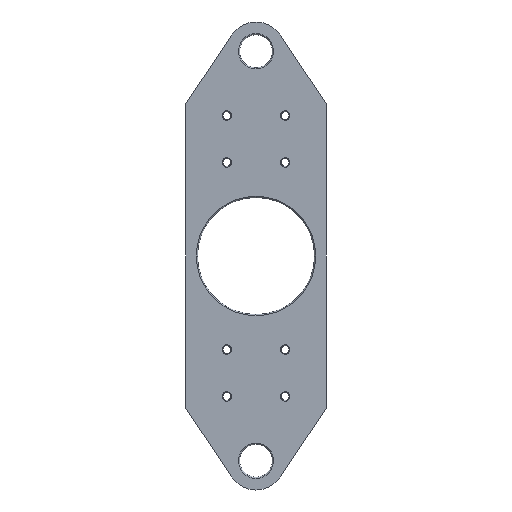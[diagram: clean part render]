
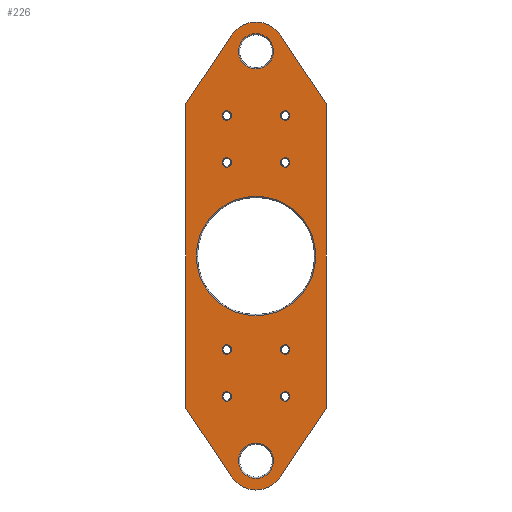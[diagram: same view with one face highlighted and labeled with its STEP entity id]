
A CAD part, front view. The second image highlights one B-rep face of the part: STEP entity #226.
In plain terms, the highlighted planar face has unit normal (0, -1, 0).
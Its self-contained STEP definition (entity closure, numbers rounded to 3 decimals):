
#122=FACE_BOUND('',#292,.T.);
#123=FACE_BOUND('',#293,.T.);
#124=FACE_BOUND('',#294,.T.);
#125=FACE_BOUND('',#295,.T.);
#126=FACE_BOUND('',#296,.T.);
#127=FACE_BOUND('',#297,.T.);
#128=FACE_BOUND('',#298,.T.);
#129=FACE_BOUND('',#299,.T.);
#130=FACE_BOUND('',#300,.T.);
#131=FACE_BOUND('',#301,.T.);
#132=FACE_BOUND('',#302,.T.);
#133=FACE_BOUND('',#303,.T.);
#214=PLANE('',#760);
#226=ADVANCED_FACE('',(#122,#123,#124,#125,#126,#127,#128,#129,#130,#131,
#132,#133),#214,.F.);
#292=EDGE_LOOP('',(#454));
#293=EDGE_LOOP('',(#455));
#294=EDGE_LOOP('',(#456));
#295=EDGE_LOOP('',(#457));
#296=EDGE_LOOP('',(#458));
#297=EDGE_LOOP('',(#459));
#298=EDGE_LOOP('',(#460));
#299=EDGE_LOOP('',(#461));
#300=EDGE_LOOP('',(#462));
#301=EDGE_LOOP('',(#463));
#302=EDGE_LOOP('',(#464));
#303=EDGE_LOOP('',(#465,#466,#467,#468,#469,#470,#471,#472));
#381=LINE('',#1038,#401);
#384=LINE('',#1044,#404);
#387=LINE('',#1050,#407);
#391=LINE('',#1062,#411);
#394=LINE('',#1068,#414);
#397=LINE('',#1078,#417);
#401=VECTOR('',#833,1.);
#404=VECTOR('',#838,1.);
#407=VECTOR('',#843,1.);
#411=VECTOR('',#855,1.);
#414=VECTOR('',#860,1.);
#417=VECTOR('',#871,1.);
#454=ORIENTED_EDGE('',*,*,#642,.T.);
#455=ORIENTED_EDGE('',*,*,#643,.T.);
#456=ORIENTED_EDGE('',*,*,#644,.T.);
#457=ORIENTED_EDGE('',*,*,#645,.F.);
#458=ORIENTED_EDGE('',*,*,#646,.F.);
#459=ORIENTED_EDGE('',*,*,#647,.F.);
#460=ORIENTED_EDGE('',*,*,#648,.T.);
#461=ORIENTED_EDGE('',*,*,#649,.T.);
#462=ORIENTED_EDGE('',*,*,#650,.T.);
#463=ORIENTED_EDGE('',*,*,#651,.T.);
#464=ORIENTED_EDGE('',*,*,#652,.T.);
#465=ORIENTED_EDGE('',*,*,#616,.F.);
#466=ORIENTED_EDGE('',*,*,#639,.F.);
#467=ORIENTED_EDGE('',*,*,#634,.F.);
#468=ORIENTED_EDGE('',*,*,#631,.F.);
#469=ORIENTED_EDGE('',*,*,#628,.F.);
#470=ORIENTED_EDGE('',*,*,#625,.F.);
#471=ORIENTED_EDGE('',*,*,#622,.F.);
#472=ORIENTED_EDGE('',*,*,#619,.F.);
#556=VERTEX_POINT('',#1031);
#557=VERTEX_POINT('',#1033);
#559=VERTEX_POINT('',#1039);
#561=VERTEX_POINT('',#1045);
#563=VERTEX_POINT('',#1051);
#565=VERTEX_POINT('',#1057);
#567=VERTEX_POINT('',#1063);
#569=VERTEX_POINT('',#1069);
#574=VERTEX_POINT('',#1086);
#575=VERTEX_POINT('',#1088);
#576=VERTEX_POINT('',#1090);
#577=VERTEX_POINT('',#1092);
#578=VERTEX_POINT('',#1094);
#579=VERTEX_POINT('',#1096);
#580=VERTEX_POINT('',#1098);
#581=VERTEX_POINT('',#1100);
#582=VERTEX_POINT('',#1102);
#583=VERTEX_POINT('',#1104);
#584=VERTEX_POINT('',#1106);
#616=EDGE_CURVE('',#556,#557,#683,.T.);
#619=EDGE_CURVE('',#557,#559,#381,.T.);
#622=EDGE_CURVE('',#559,#561,#384,.T.);
#625=EDGE_CURVE('',#561,#563,#387,.T.);
#628=EDGE_CURVE('',#563,#565,#685,.T.);
#631=EDGE_CURVE('',#565,#567,#391,.T.);
#634=EDGE_CURVE('',#567,#569,#394,.T.);
#639=EDGE_CURVE('',#569,#556,#397,.T.);
#642=EDGE_CURVE('',#574,#574,#690,.T.);
#643=EDGE_CURVE('',#575,#575,#691,.T.);
#644=EDGE_CURVE('',#576,#576,#692,.T.);
#645=EDGE_CURVE('',#577,#577,#693,.T.);
#646=EDGE_CURVE('',#578,#578,#694,.T.);
#647=EDGE_CURVE('',#579,#579,#695,.T.);
#648=EDGE_CURVE('',#580,#580,#696,.T.);
#649=EDGE_CURVE('',#581,#581,#697,.T.);
#650=EDGE_CURVE('',#582,#582,#698,.T.);
#651=EDGE_CURVE('',#583,#583,#699,.T.);
#652=EDGE_CURVE('',#584,#584,#700,.T.);
#683=CIRCLE('',#732,25.);
#685=CIRCLE('',#738,25.);
#690=CIRCLE('',#749,15.);
#691=CIRCLE('',#750,51.);
#692=CIRCLE('',#751,15.);
#693=CIRCLE('',#752,4.);
#694=CIRCLE('',#753,4.);
#695=CIRCLE('',#754,4.);
#696=CIRCLE('',#755,4.);
#697=CIRCLE('',#756,4.);
#698=CIRCLE('',#757,4.);
#699=CIRCLE('',#758,4.);
#700=CIRCLE('',#759,4.);
#732=AXIS2_PLACEMENT_3D('',#1032,#827,#828);
#738=AXIS2_PLACEMENT_3D('',#1056,#849,#850);
#749=AXIS2_PLACEMENT_3D('',#1085,#880,#881);
#750=AXIS2_PLACEMENT_3D('',#1087,#882,#883);
#751=AXIS2_PLACEMENT_3D('',#1089,#884,#885);
#752=AXIS2_PLACEMENT_3D('',#1091,#886,#887);
#753=AXIS2_PLACEMENT_3D('',#1093,#888,#889);
#754=AXIS2_PLACEMENT_3D('',#1095,#890,#891);
#755=AXIS2_PLACEMENT_3D('',#1097,#892,#893);
#756=AXIS2_PLACEMENT_3D('',#1099,#894,#895);
#757=AXIS2_PLACEMENT_3D('',#1101,#896,#897);
#758=AXIS2_PLACEMENT_3D('',#1103,#898,#899);
#759=AXIS2_PLACEMENT_3D('',#1105,#900,#901);
#760=AXIS2_PLACEMENT_3D('',#1107,#902,#903);
#827=DIRECTION('',(0.,1.,0.));
#828=DIRECTION('',(1.,0.,0.));
#833=DIRECTION('',(0.554,0.,-0.832));
#838=DIRECTION('',(0.,0.,-1.));
#843=DIRECTION('',(-0.554,0.,-0.832));
#849=DIRECTION('',(0.,1.,0.));
#850=DIRECTION('',(1.,0.,0.));
#855=DIRECTION('',(-0.554,0.,0.832));
#860=DIRECTION('',(0.,0.,1.));
#871=DIRECTION('',(0.554,0.,0.832));
#880=DIRECTION('',(0.,1.,0.));
#881=DIRECTION('',(0.,0.,1.));
#882=DIRECTION('',(0.,1.,0.));
#883=DIRECTION('',(0.,0.,1.));
#884=DIRECTION('',(0.,1.,0.));
#885=DIRECTION('',(0.,0.,1.));
#886=DIRECTION('',(0.,-1.,0.));
#887=DIRECTION('',(0.,0.,1.));
#888=DIRECTION('',(0.,-1.,0.));
#889=DIRECTION('',(0.,0.,1.));
#890=DIRECTION('',(0.,-1.,0.));
#891=DIRECTION('',(0.,0.,1.));
#892=DIRECTION('',(0.,1.,0.));
#893=DIRECTION('',(0.,0.,1.));
#894=DIRECTION('',(0.,1.,0.));
#895=DIRECTION('',(0.,0.,1.));
#896=DIRECTION('',(0.,1.,0.));
#897=DIRECTION('',(0.,0.,1.));
#898=DIRECTION('',(0.,1.,0.));
#899=DIRECTION('',(0.,0.,1.));
#900=DIRECTION('',(0.,1.,0.));
#901=DIRECTION('',(0.,0.,1.));
#902=DIRECTION('',(0.,1.,0.));
#903=DIRECTION('',(0.,0.,1.));
#1031=CARTESIAN_POINT('',(-20.809,-10.,188.856));
#1032=CARTESIAN_POINT('',(0.,-10.,175.));
#1033=CARTESIAN_POINT('',(20.809,-10.,188.856));
#1038=CARTESIAN_POINT('',(20.809,-10.,188.856));
#1039=CARTESIAN_POINT('',(60.,-10.,130.));
#1044=CARTESIAN_POINT('',(60.,-10.,130.));
#1045=CARTESIAN_POINT('',(60.,-10.,-130.));
#1050=CARTESIAN_POINT('',(60.,-10.,-130.));
#1051=CARTESIAN_POINT('',(20.809,-10.,-188.856));
#1056=CARTESIAN_POINT('',(0.,-10.,-175.));
#1057=CARTESIAN_POINT('',(-20.809,-10.,-188.856));
#1062=CARTESIAN_POINT('',(-20.809,-10.,-188.856));
#1063=CARTESIAN_POINT('',(-60.,-10.,-130.));
#1068=CARTESIAN_POINT('',(-60.,-10.,-130.));
#1069=CARTESIAN_POINT('',(-60.,-10.,130.));
#1078=CARTESIAN_POINT('',(-60.,-10.,130.));
#1085=CARTESIAN_POINT('',(0.,-10.,175.));
#1086=CARTESIAN_POINT('',(0.,-10.,190.));
#1087=CARTESIAN_POINT('',(0.,-10.,0.));
#1088=CARTESIAN_POINT('',(0.,-10.,51.));
#1089=CARTESIAN_POINT('',(0.,-10.,-175.));
#1090=CARTESIAN_POINT('',(0.,-10.,-160.));
#1091=CARTESIAN_POINT('',(25.,-10.,-120.));
#1092=CARTESIAN_POINT('',(25.,-10.,-116.));
#1093=CARTESIAN_POINT('',(-25.,-10.,-120.));
#1094=CARTESIAN_POINT('',(-25.,-10.,-116.));
#1095=CARTESIAN_POINT('',(25.,-10.,-80.));
#1096=CARTESIAN_POINT('',(25.,-10.,-76.));
#1097=CARTESIAN_POINT('',(-25.,-10.,-80.));
#1098=CARTESIAN_POINT('',(-25.,-10.,-76.));
#1099=CARTESIAN_POINT('',(25.,-10.,120.));
#1100=CARTESIAN_POINT('',(25.,-10.,124.));
#1101=CARTESIAN_POINT('',(-25.,-10.,120.));
#1102=CARTESIAN_POINT('',(-25.,-10.,124.));
#1103=CARTESIAN_POINT('',(25.,-10.,80.));
#1104=CARTESIAN_POINT('',(25.,-10.,84.));
#1105=CARTESIAN_POINT('',(-25.,-10.,80.));
#1106=CARTESIAN_POINT('',(-25.,-10.,84.));
#1107=CARTESIAN_POINT('',(0.,-10.,175.));
